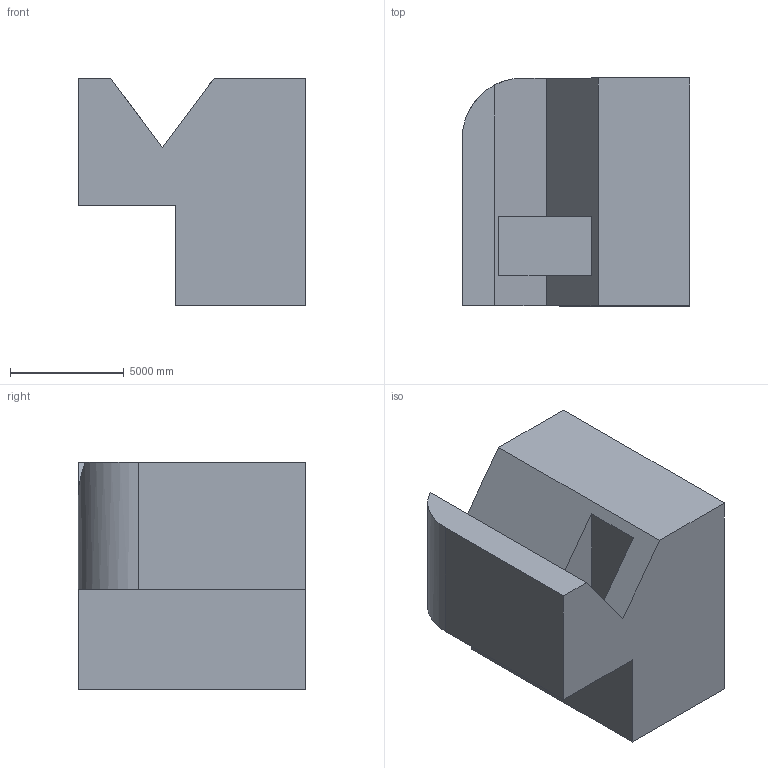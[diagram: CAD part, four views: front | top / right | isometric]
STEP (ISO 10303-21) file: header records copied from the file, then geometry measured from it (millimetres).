
FILE_DESCRIPTION (( 'STEP AP203' ), '1' );
FILE_NAME ('1332.STEP', '2022-08-18T13:49:22', ( 'user' ), ( '' ), 'SwSTEP 2.0', 'SolidWorks 2021', '' );
FILE_SCHEMA (( 'CONFIG_CONTROL_DESIGN' ));
Length unit declared in the file: centimetre
Products named in the file (1): 1332
Bounding box: 10000 x 10000 x 10000 mm (x, y, z)
Volume: 698008373512.5 mm3; surface area: 613957460.5 mm2
Topology: 1 solids, 1 shells, 17 faces, 45 edges, 30 vertices
Faces by surface type: plane 16, cylinder 1
Entity records: 598 total; most frequent: CARTESIAN_POINT 96, ORIENTED_EDGE 90, DIRECTION 82, EDGE_CURVE 45, VECTOR 42, LINE 42, VERTEX_POINT 30, AXIS2_PLACEMENT_3D 20
